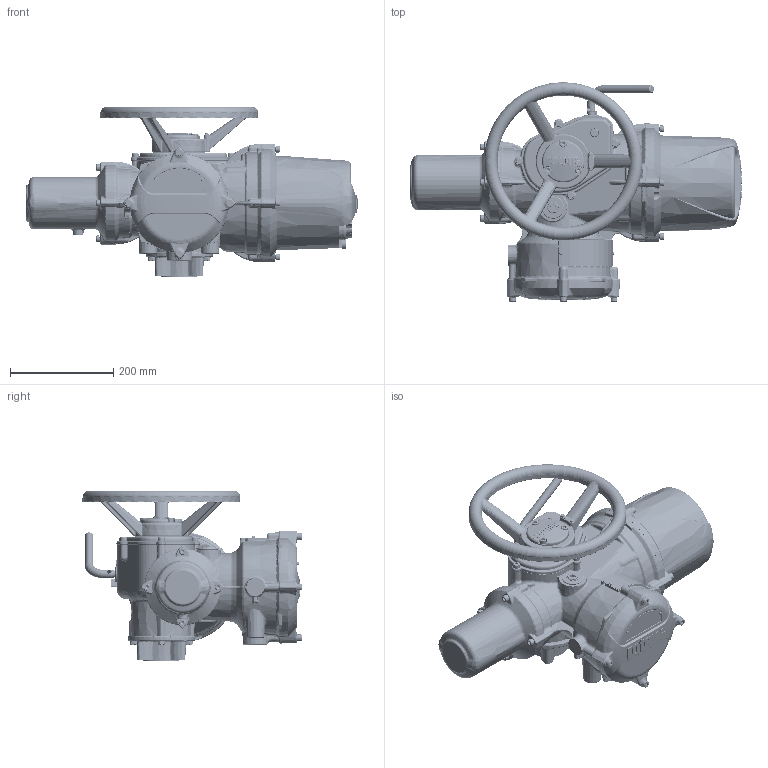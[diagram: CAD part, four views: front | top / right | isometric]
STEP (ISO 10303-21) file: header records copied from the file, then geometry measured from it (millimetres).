
FILE_DESCRIPTION(/* description */ ('Unknown'),/* implementation_level */ '2;1');
FILE_NAME(/* name */ 'IQ10_THW_SHORT-ECVR_B1',/* time_stamp */ '2016-02-29T11:32:41+00:00',/* author */ ('Unknown'),/* organization */ ('Unknown'),/* preprocessor_version */ 'ST-DEVELOPER v16',/* originating_system */ 'DEX',/* authorisation */ $);
FILE_SCHEMA (('AUTOMOTIVE_DESIGN {1 0 10303 214 3 1 1}'));
Length unit declared in the file: millimetre
Products named in the file (8): IQ10_THW_SHORT-ECVR_B1; II1-01-std; II1-04THW-std; II1-02B1_F10-std; II0-20SHORT-std; II0-55-std; II1-04CAP-std; II1-05-std
Assembly tree (7 placements, depth 2):
  IQ10_THW_SHORT-ECVR_B1
    II1-01-std
    II1-04THW-std
    II1-02B1_F10-std
    II0-20SHORT-std
    II0-55-std
    II1-04CAP-std
    II1-05-std
Bounding box: 641.76 x 423.78 x 329.52 mm (x, y, z)
Volume: 13826489 mm3; surface area: 1068503.6 mm2
Topology: 27 solids, 35 shells, 5223 faces, 12916 edges, 7652 vertices
Faces by surface type: bspline 2041, plane 1296, cylinder 732, torus 559, cone 516, sphere 79
Full cylindrical faces by diameter (mm): 1.152 x1, 3 x12, 4 x2, 4.917 x1, 6 x7, 6.45 x9, 6.47 x9, 6.5 x1, 6.647 x2, 7 x4, 7.6 x4, 8 x22, 8.1 x1, 8.2 x1, 8.5 x12, 10 x1, 11.78 x1, 13 x20, 13.25 x4, 15.5 x1, 16 x4, 16.186 x1, 24.78 x1, 55 x1, 56 x1, 60 x1, 69.95 x1, 86 x1, 91.9 x1, 94 x1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
Entity records: 290160 total; most frequent: CARTESIAN_POINT 151323, ORIENTED_EDGE 24198, DIRECTION 17752, EDGE_CURVE 12099, AXIS2_PLACEMENT_3D 7609, VERTEX_POINT 7426, FACE_BOUND 5781, EDGE_LOOP 5756
